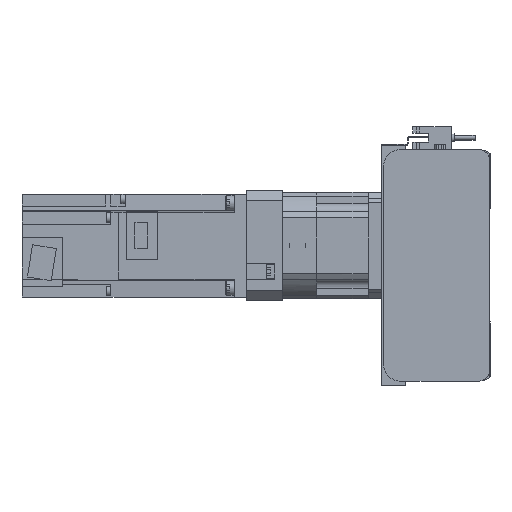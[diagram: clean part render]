
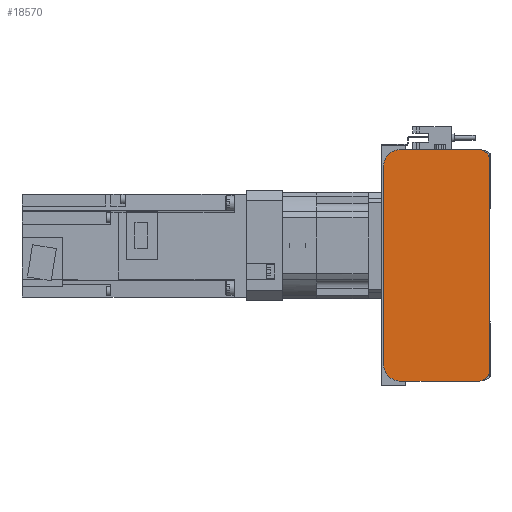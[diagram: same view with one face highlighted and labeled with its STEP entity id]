
A CAD part, left-side view. The second image highlights one B-rep face of the part: STEP entity #18570.
In plain terms, the highlighted planar face has unit normal (-1, 0, 0).
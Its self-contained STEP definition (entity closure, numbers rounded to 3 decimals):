
#1156=CIRCLE('',#20343,5.);
#1157=CIRCLE('',#20346,5.);
#1158=CIRCLE('',#20349,10.);
#1159=CIRCLE('',#20352,10.);
#5587=ORIENTED_EDGE('',*,*,#8383,.F.);
#5588=ORIENTED_EDGE('',*,*,#8540,.F.);
#5589=ORIENTED_EDGE('',*,*,#8532,.F.);
#5590=ORIENTED_EDGE('',*,*,#8530,.F.);
#5591=ORIENTED_EDGE('',*,*,#8179,.F.);
#5592=ORIENTED_EDGE('',*,*,#8529,.F.);
#5593=ORIENTED_EDGE('',*,*,#8527,.F.);
#5594=ORIENTED_EDGE('',*,*,#8525,.F.);
#5595=ORIENTED_EDGE('',*,*,#8523,.F.);
#5596=ORIENTED_EDGE('',*,*,#8521,.F.);
#8179=EDGE_CURVE('',#10158,#10159,#11812,.T.);
#8383=EDGE_CURVE('',#10259,#10260,#11955,.T.);
#8521=EDGE_CURVE('',#10260,#10343,#12084,.T.);
#8523=EDGE_CURVE('',#10343,#10344,#1156,.T.);
#8525=EDGE_CURVE('',#10344,#10345,#12087,.T.);
#8527=EDGE_CURVE('',#10345,#10346,#1157,.T.);
#8529=EDGE_CURVE('',#10346,#10158,#12090,.T.);
#8530=EDGE_CURVE('',#10159,#10347,#1158,.T.);
#8532=EDGE_CURVE('',#10347,#10348,#12092,.T.);
#8540=EDGE_CURVE('',#10348,#10259,#1159,.T.);
#10158=VERTEX_POINT('',#30384);
#10159=VERTEX_POINT('',#30386);
#10259=VERTEX_POINT('',#30765);
#10260=VERTEX_POINT('',#30767);
#10343=VERTEX_POINT('',#31044);
#10344=VERTEX_POINT('',#31048);
#10345=VERTEX_POINT('',#31052);
#10346=VERTEX_POINT('',#31056);
#10347=VERTEX_POINT('',#31062);
#10348=VERTEX_POINT('',#31066);
#11812=LINE('',#30385,#13505);
#11955=LINE('',#30766,#13648);
#12084=LINE('',#31043,#13777);
#12087=LINE('',#31051,#13780);
#12090=LINE('',#31059,#13783);
#12092=LINE('',#31065,#13785);
#13505=VECTOR('',#24648,1000.);
#13648=VECTOR('',#25065,1000.);
#13777=VECTOR('',#25324,1000.);
#13780=VECTOR('',#25333,1000.);
#13783=VECTOR('',#25342,1000.);
#13785=VECTOR('',#25350,1000.);
#15173=EDGE_LOOP('',(#5587,#5588,#5589,#5590,#5591,#5592,#5593,#5594,#5595,
#5596));
#16732=FACE_BOUND('',#15173,.T.);
#17575=PLANE('',#20353);
#18570=ADVANCED_FACE('',(#16732),#17575,.F.);
#20343=AXIS2_PLACEMENT_3D('',#31047,#25328,#25329);
#20346=AXIS2_PLACEMENT_3D('',#31055,#25337,#25338);
#20349=AXIS2_PLACEMENT_3D('',#31061,#25345,#25346);
#20352=AXIS2_PLACEMENT_3D('',#31079,#25360,#25361);
#20353=AXIS2_PLACEMENT_3D('',#31080,#25362,#25363);
#24648=DIRECTION('',(0.,1.,0.));
#25065=DIRECTION('',(0.,-1.,0.));
#25324=DIRECTION('',(0.,-0.942,-0.336));
#25328=DIRECTION('',(1.,0.,0.));
#25329=DIRECTION('',(0.,0.,-1.));
#25333=DIRECTION('',(0.,0.,-1.));
#25337=DIRECTION('',(1.,0.,0.));
#25338=DIRECTION('',(0.,0.,-1.));
#25342=DIRECTION('',(0.,0.942,-0.336));
#25345=DIRECTION('',(1.,0.,0.));
#25346=DIRECTION('',(0.,0.,-1.));
#25350=DIRECTION('',(0.,0.,1.));
#25360=DIRECTION('',(1.,0.,0.));
#25361=DIRECTION('',(0.,0.,-1.));
#25362=DIRECTION('',(1.,0.,0.));
#25363=DIRECTION('',(0.,0.,-1.));
#30384=CARTESIAN_POINT('',(-10.,6.,-67.5));
#30385=CARTESIAN_POINT('',(-10.,6.,-67.5));
#30386=CARTESIAN_POINT('',(-10.,52.,-67.5));
#30765=CARTESIAN_POINT('',(-10.,52.,67.5));
#30766=CARTESIAN_POINT('',(-10.,52.,67.5));
#30767=CARTESIAN_POINT('',(-10.,6.,67.5));
#31043=CARTESIAN_POINT('',(-10.,6.,67.5));
#31044=CARTESIAN_POINT('',(-10.,3.822,66.724));
#31047=CARTESIAN_POINT('',(-10.,5.5,62.014));
#31048=CARTESIAN_POINT('',(-10.,0.5,62.014));
#31051=CARTESIAN_POINT('',(-10.,0.5,62.014));
#31052=CARTESIAN_POINT('',(-10.,0.5,-62.014));
#31055=CARTESIAN_POINT('',(-10.,5.5,-62.014));
#31056=CARTESIAN_POINT('',(-10.,3.822,-66.724));
#31059=CARTESIAN_POINT('',(-10.,3.822,-66.724));
#31061=CARTESIAN_POINT('',(-10.,52.,-57.5));
#31062=CARTESIAN_POINT('',(-10.,62.,-57.5));
#31065=CARTESIAN_POINT('',(-10.,62.,-57.5));
#31066=CARTESIAN_POINT('',(-10.,62.,57.5));
#31079=CARTESIAN_POINT('',(-10.,52.,57.5));
#31080=CARTESIAN_POINT('',(-10.,5.5,62.014));
